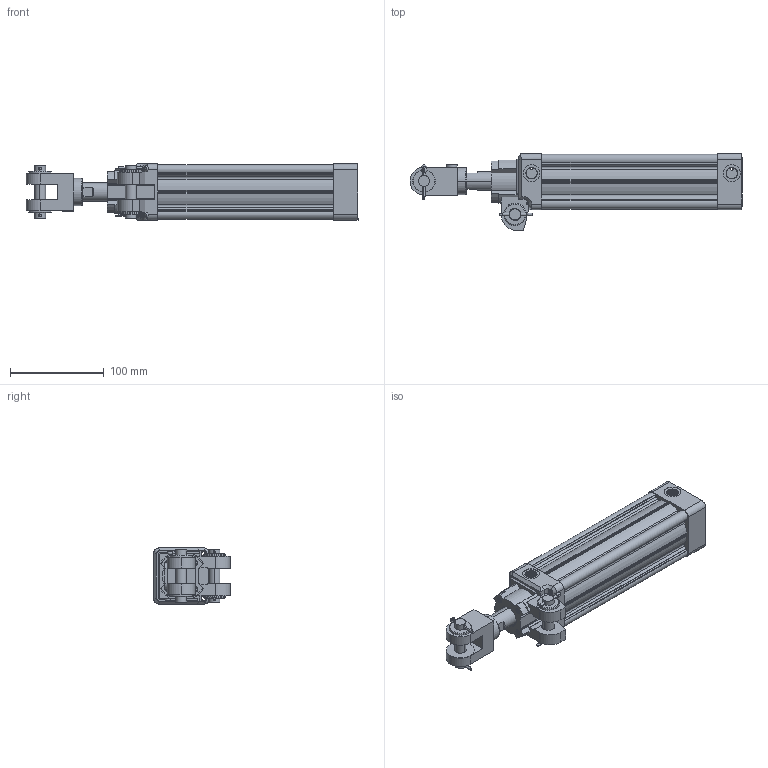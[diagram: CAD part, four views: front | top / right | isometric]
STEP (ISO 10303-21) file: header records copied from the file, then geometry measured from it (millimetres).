
FILE_DESCRIPTION(('CATIA V5 STEP Exchange'),'2;1');
FILE_NAME('D:\stp file for catalog\PNCCA\pncca 50\pncca 50-20-150.stp','2015-05-04T04:31:22+00:00',('none'),('none'),'Version 5-6 Release 2012','CATIA V5 STEP AP203','none');
FILE_SCHEMA(('CONFIG_CONTROL_DESIGN'));
Length unit declared in the file: millimetre
Products named in the file (3): pncca 50-20-150; PNCCA 50-20-50-01; PNCCA 50-20-50-02
Assembly tree (14 placements, depth 3):
  pncca 50-20-150
    PNCCA 50-20-50-01
      #66  x2
      #677
      #15023
      #39524
      #39784
      #40044
      #43520
    PNCCA 50-20-50-02
      #43882
      #46419
      #66  x2
Bounding box: 355 x 82 x 60 mm (x, y, z)
Volume: 501143.6 mm3; surface area: 207732.4 mm2
Topology: 13 solids, 13 shells, 1550 faces, 3994 edges, 2527 vertices
Faces by surface type: cone 587, cylinder 580, plane 341, torus 34, bspline 8
Entity records: 46761 total; most frequent: CARTESIAN_POINT 12296, ORIENTED_EDGE 7776, DIRECTION 5729, EDGE_CURVE 3888, AXIS2_PLACEMENT_3D 2855, VERTEX_POINT 2455, VECTOR 1682, LINE 1682
